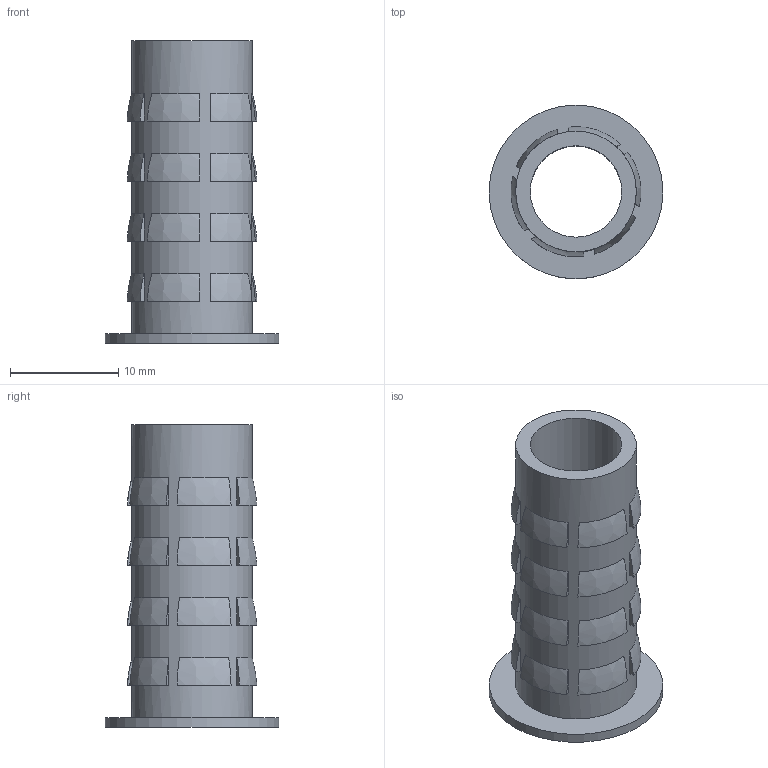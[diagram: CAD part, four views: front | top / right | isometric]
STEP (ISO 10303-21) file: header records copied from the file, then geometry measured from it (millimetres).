
FILE_DESCRIPTION (( 'STEP AP214' ), '1' );
FILE_NAME ('flanged insert 3(8)-24.STEP', '2017-08-09T11:44:28', ( '微软用户' ), ( '微软中国' ), 'SwSTEP 2.0', 'SolidWorks 2015', '' );
FILE_SCHEMA (( 'AUTOMOTIVE_DESIGN' ));
Length unit declared in the file: millimetre
Products named in the file (1): flanged insert 3(8)-24
Bounding box: 16.03 x 16.03 x 27.94 mm (x, y, z)
Volume: 1311.2 mm3; surface area: 2115 mm2
Topology: 1 solids, 1 shells, 103 faces, 240 edges, 160 vertices
Faces by surface type: plane 75, bspline 24, cylinder 3, cone 1
Full cylindrical faces by diameter (mm): 8.433 x1, 11.125 x1, 16.027 x1
Entity records: 4315 total; most frequent: CARTESIAN_POINT 982, ORIENTED_EDGE 446, DIRECTION 414, EDGE_CURVE 223, AXIS2_PLACEMENT_3D 159, VERTEX_POINT 151, EDGE_LOOP 134, UNCERTAINTY_MEASURE_WITH_UNIT 106
